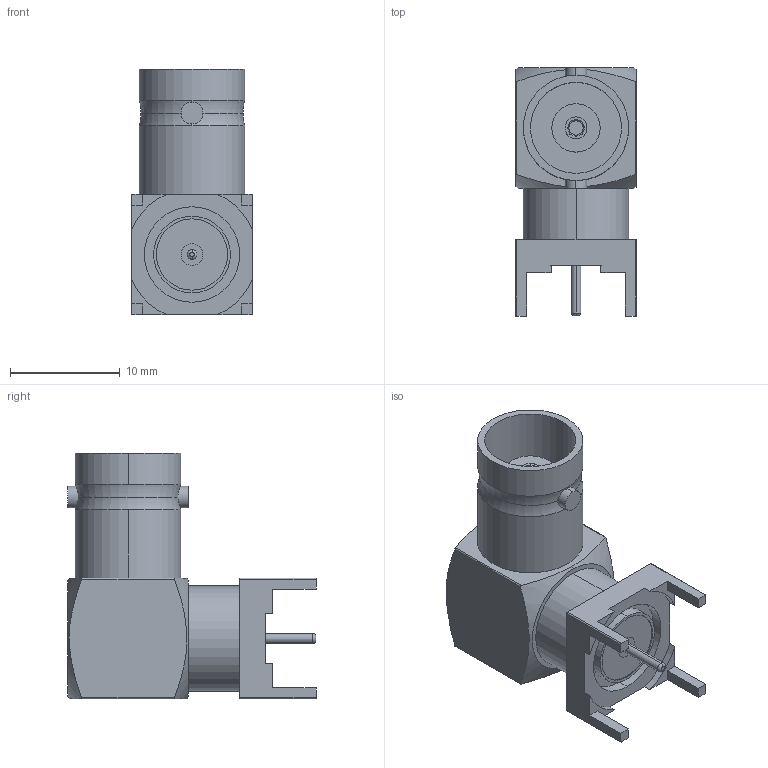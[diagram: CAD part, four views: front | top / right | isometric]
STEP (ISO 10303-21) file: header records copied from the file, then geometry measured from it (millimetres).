
FILE_DESCRIPTION (( 'STEP AP214' ), '1' );
FILE_NAME ('User Library-Tyco Electronics BNC PCB socket (right angle) 1-1478035-0-1.STEP', '2013-08-13T10:45:49', ( 'Windows User' ), ( '' ), 'SwSTEP 2.0', 'SolidWorks 2013', '' );
FILE_SCHEMA (( 'AUTOMOTIVE_DESIGN' ));
Length unit declared in the file: millimetre
Products named in the file (1): User Library-Tyco Electronics BNC PCB socket (right angle) 1-1478035-0-1
Bounding box: 11 x 22.65 x 22.4 mm (x, y, z)
Volume: 2356.4 mm3; surface area: 1937.8 mm2
Topology: 5 solids, 5 shells, 123 faces, 295 edges, 194 vertices
Faces by surface type: plane 56, cylinder 50, cone 9, torus 8
Entity records: 4325 total; most frequent: CARTESIAN_POINT 921, DIRECTION 623, ORIENTED_EDGE 590, EDGE_CURVE 295, AXIS2_PLACEMENT_3D 240, VERTEX_POINT 194, VECTOR 143, LINE 143
